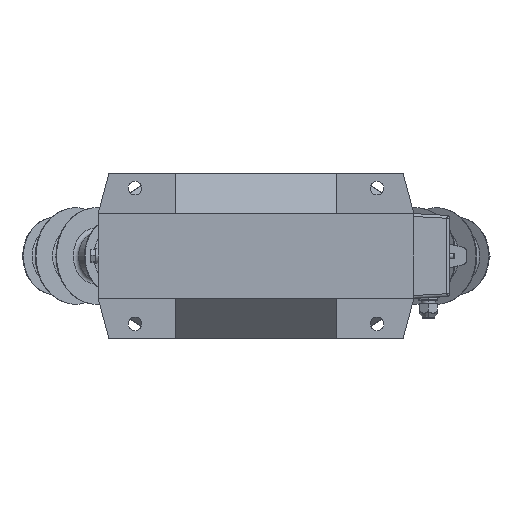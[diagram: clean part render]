
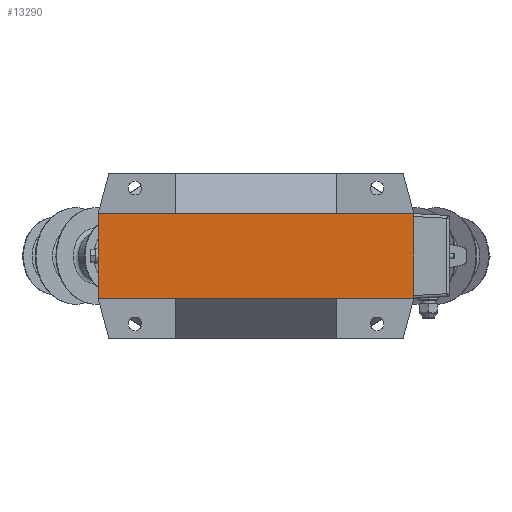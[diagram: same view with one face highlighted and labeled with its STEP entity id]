
A CAD part, front view. The second image highlights one B-rep face of the part: STEP entity #13290.
In plain terms, the highlighted planar face has unit normal (0, -1, 0).
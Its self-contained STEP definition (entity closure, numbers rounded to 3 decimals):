
#7 = VERTEX_POINT ( 'NONE', #9238 ) ;
#34 = CARTESIAN_POINT ( 'NONE',  ( 83., 3., -43.5 ) ) ;
#126 = LINE ( 'NONE', #34, #4001 ) ;
#745 = CARTESIAN_POINT ( 'NONE',  ( 83., 3., 43.5 ) ) ;
#1108 = ORIENTED_EDGE ( 'NONE', *, *, #3932, .T. ) ;
#1238 = LINE ( 'NONE', #13074, #12719 ) ;
#1484 = CARTESIAN_POINT ( 'NONE',  ( 83., 3., -85.001 ) ) ;
#2406 = CARTESIAN_POINT ( 'NONE',  ( -83., 3., 43.5 ) ) ;
#2418 = EDGE_CURVE ( 'NONE', #7, #5939, #9585, .T. ) ;
#2504 = CARTESIAN_POINT ( 'NONE',  ( -163., 3., 43.5 ) ) ;
#3451 = DIRECTION ( 'NONE',  ( 0., 0., 1. ) ) ;
#3523 = CARTESIAN_POINT ( 'NONE',  ( -83., 3., -43.5 ) ) ;
#3539 = DIRECTION ( 'NONE',  ( -1., 0., 0. ) ) ;
#3829 = DIRECTION ( 'NONE',  ( 0., 0., 1. ) ) ;
#3932 = EDGE_CURVE ( 'NONE', #4278, #13322, #15607, .T. ) ;
#4001 = VECTOR ( 'NONE', #16079, 1000. ) ;
#4278 = VERTEX_POINT ( 'NONE', #17623 ) ;
#4564 = DIRECTION ( 'NONE',  ( 1., 0., 0. ) ) ;
#4853 = DIRECTION ( 'NONE',  ( 0., 1., 0. ) ) ;
#5939 = VERTEX_POINT ( 'NONE', #2406 ) ;
#6301 = CARTESIAN_POINT ( 'NONE',  ( 163., 3., 43.5 ) ) ;
#6636 = ORIENTED_EDGE ( 'NONE', *, *, #12169, .T. ) ;
#6654 = DIRECTION ( 'NONE',  ( 1., 0., 0. ) ) ;
#7084 = DIRECTION ( 'NONE',  ( 1., 0., 0. ) ) ;
#7272 = VECTOR ( 'NONE', #4564, 1000. ) ;
#7471 = CARTESIAN_POINT ( 'NONE',  ( -163., 3., -43.5 ) ) ;
#8327 = EDGE_CURVE ( 'NONE', #17174, #4278, #10102, .T. ) ;
#8420 = AXIS2_PLACEMENT_3D ( 'NONE', #1484, #4853, #10591 ) ;
#8937 = VECTOR ( 'NONE', #7084, 1000. ) ;
#9238 = CARTESIAN_POINT ( 'NONE',  ( 83., 3., 43.5 ) ) ;
#9353 = VERTEX_POINT ( 'NONE', #9817 ) ;
#9496 = CARTESIAN_POINT ( 'NONE',  ( -163., 3., 43.5 ) ) ;
#9585 = LINE ( 'NONE', #745, #19103 ) ;
#9588 = LINE ( 'NONE', #2504, #11883 ) ;
#9804 = EDGE_CURVE ( 'NONE', #7, #13322, #1238, .T. ) ;
#9817 = CARTESIAN_POINT ( 'NONE',  ( -163., 3., 43.5 ) ) ;
#9842 = ORIENTED_EDGE ( 'NONE', *, *, #8327, .T. ) ;
#10093 = ORIENTED_EDGE ( 'NONE', *, *, #14763, .F. ) ;
#10102 = LINE ( 'NONE', #17694, #8937 ) ;
#10591 = DIRECTION ( 'NONE',  ( -1., 0., 0. ) ) ;
#11571 = VECTOR ( 'NONE', #3451, 1000. ) ;
#11883 = VECTOR ( 'NONE', #6654, 1000. ) ;
#11885 = ORIENTED_EDGE ( 'NONE', *, *, #2418, .T. ) ;
#12169 = EDGE_CURVE ( 'NONE', #12831, #17174, #126, .T. ) ;
#12599 = VERTEX_POINT ( 'NONE', #14360 ) ;
#12624 = LINE ( 'NONE', #7471, #7272 ) ;
#12719 = VECTOR ( 'NONE', #13751, 1000. ) ;
#12831 = VERTEX_POINT ( 'NONE', #3523 ) ;
#13001 = ORIENTED_EDGE ( 'NONE', *, *, #17497, .T. ) ;
#13074 = CARTESIAN_POINT ( 'NONE',  ( -163., 3., 43.5 ) ) ;
#13129 = FACE_OUTER_BOUND ( 'NONE', #18038, .T. ) ;
#13290 = ADVANCED_FACE ( 'NONE', ( #13129 ), #14582, .F. ) ;
#13322 = VERTEX_POINT ( 'NONE', #6301 ) ;
#13382 = ORIENTED_EDGE ( 'NONE', *, *, #14879, .F. ) ;
#13751 = DIRECTION ( 'NONE',  ( 1., 0., 0. ) ) ;
#14141 = CARTESIAN_POINT ( 'NONE',  ( 163., 3., 43.5 ) ) ;
#14360 = CARTESIAN_POINT ( 'NONE',  ( -163., 3., -43.5 ) ) ;
#14582 = PLANE ( 'NONE',  #8420 ) ;
#14763 = EDGE_CURVE ( 'NONE', #12599, #9353, #15234, .T. ) ;
#14879 = EDGE_CURVE ( 'NONE', #9353, #5939, #9588, .T. ) ;
#14915 = VECTOR ( 'NONE', #3829, 1000. ) ;
#15234 = LINE ( 'NONE', #9496, #11571 ) ;
#15607 = LINE ( 'NONE', #14141, #14915 ) ;
#16060 = ORIENTED_EDGE ( 'NONE', *, *, #9804, .F. ) ;
#16079 = DIRECTION ( 'NONE',  ( 1., 0., 0. ) ) ;
#17174 = VERTEX_POINT ( 'NONE', #18479 ) ;
#17497 = EDGE_CURVE ( 'NONE', #12599, #12831, #12624, .T. ) ;
#17623 = CARTESIAN_POINT ( 'NONE',  ( 163., 3., -43.5 ) ) ;
#17694 = CARTESIAN_POINT ( 'NONE',  ( -163., 3., -43.5 ) ) ;
#18038 = EDGE_LOOP ( 'NONE', ( #6636, #9842, #1108, #16060, #11885, #13382, #10093, #13001 ) ) ;
#18479 = CARTESIAN_POINT ( 'NONE',  ( 83., 3., -43.5 ) ) ;
#19103 = VECTOR ( 'NONE', #3539, 1000. ) ;
